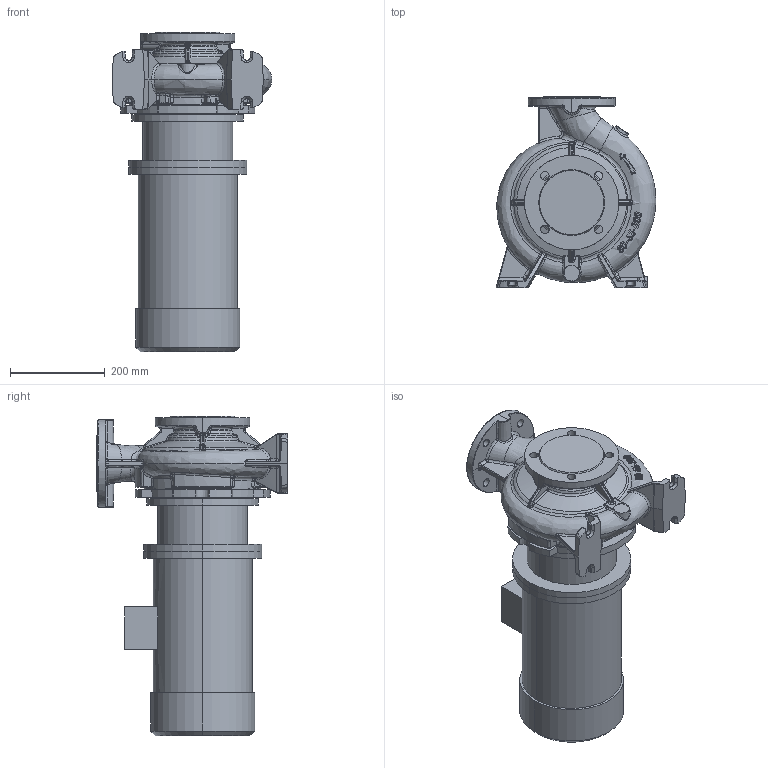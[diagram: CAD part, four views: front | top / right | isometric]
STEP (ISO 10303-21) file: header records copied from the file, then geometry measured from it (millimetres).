
FILE_DESCRIPTION (( 'STEP AP203' ), '1' );
FILE_NAME ('KRM 80-65-200-4-4.STEP', '2026-05-07T08:46:37', ( '' ), ( '' ), 'SwSTEP 2.0', 'SolidWorks 2016', '' );
FILE_SCHEMA (( 'CONFIG_CONTROL_DESIGN' ));
Length unit declared in the file: millimetre
Products named in the file (1): KRM 80-65-200-4-4
Bounding box: 338.15 x 405 x 676.3 mm (x, y, z)
Volume: 29223568.8 mm3; surface area: 1229007.5 mm2
Topology: 14 solids, 14 shells, 1152 faces, 2738 edges, 1620 vertices
Faces by surface type: bspline 552, cylinder 220, plane 200, torus 89, cone 76, sphere 15
Entity records: 71294 total; most frequent: CARTESIAN_POINT 48938, ORIENTED_EDGE 5440, DIRECTION 3583, EDGE_CURVE 2720, VERTEX_POINT 1620, AXIS2_PLACEMENT_3D 1491, EDGE_LOOP 1204, ADVANCED_FACE 1152
